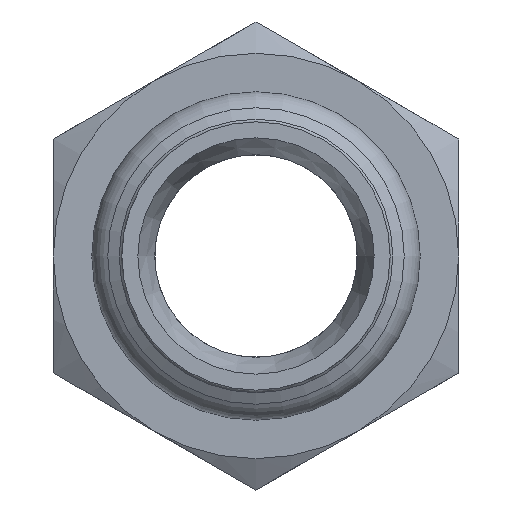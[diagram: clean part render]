
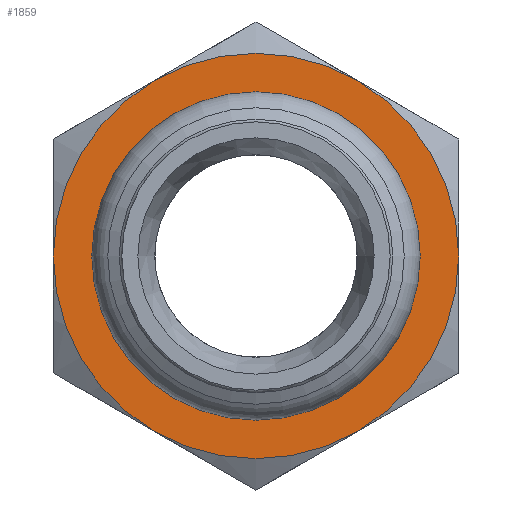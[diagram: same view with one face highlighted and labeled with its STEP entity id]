
A CAD part, left-side view. The second image highlights one B-rep face of the part: STEP entity #1859.
In plain terms, the highlighted planar face has unit normal (-1, 0, 0) as drawn and (0, 0, -1) by its records, which use the part's own axes.
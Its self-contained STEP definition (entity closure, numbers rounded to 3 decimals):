
#1319=CARTESIAN_POINT('',(16.454,9.5,0.));
#1320=VERTEX_POINT('',#1319);
#1334=CARTESIAN_POINT('',(16.454,-9.5,0.));
#1335=VERTEX_POINT('',#1334);
#1349=CARTESIAN_POINT('',(0.0,0.0,0.0));
#1350=DIRECTION('',(0.0,0.0,-1.0));
#1351=DIRECTION('',(0.0,-1.0,0.0));
#1352=AXIS2_PLACEMENT_3D('',#1349,#1350,#1351);
#1353=CIRCLE('',#1352,19.);
#1354=EDGE_CURVE('',#1320,#1335,#1353,.T.);
#1366=CARTESIAN_POINT('',(0.0,19.,0.));
#1367=VERTEX_POINT('',#1366);
#1394=CARTESIAN_POINT('',(0.0,0.0,0.0));
#1395=DIRECTION('',(0.0,0.0,-1.0));
#1396=DIRECTION('',(0.0,-1.0,0.0));
#1397=AXIS2_PLACEMENT_3D('',#1394,#1395,#1396);
#1398=CIRCLE('',#1397,19.);
#1399=EDGE_CURVE('',#1367,#1320,#1398,.T.);
#1411=CARTESIAN_POINT('',(-16.454,9.5,0.));
#1412=VERTEX_POINT('',#1411);
#1439=CARTESIAN_POINT('',(0.0,0.0,0.0));
#1440=DIRECTION('',(0.0,0.0,-1.0));
#1441=DIRECTION('',(0.0,-1.0,0.0));
#1442=AXIS2_PLACEMENT_3D('',#1439,#1440,#1441);
#1443=CIRCLE('',#1442,19.);
#1444=EDGE_CURVE('',#1412,#1367,#1443,.T.);
#1469=CARTESIAN_POINT('',(-16.454,-9.5,0.));
#1470=VERTEX_POINT('',#1469);
#1471=CARTESIAN_POINT('',(0.0,0.0,0.0));
#1472=DIRECTION('',(0.0,0.0,-1.0));
#1473=DIRECTION('',(0.0,-1.0,0.0));
#1474=AXIS2_PLACEMENT_3D('',#1471,#1472,#1473);
#1475=CIRCLE('',#1474,19.);
#1476=EDGE_CURVE('',#1470,#1412,#1475,.T.);
#1514=CARTESIAN_POINT('',(0.0,-19.0,0.0));
#1515=VERTEX_POINT('',#1514);
#1516=CARTESIAN_POINT('',(0.0,0.0,0.0));
#1517=DIRECTION('',(0.0,0.0,-1.0));
#1518=DIRECTION('',(0.0,-1.0,0.0));
#1519=AXIS2_PLACEMENT_3D('',#1516,#1517,#1518);
#1520=CIRCLE('',#1519,19.);
#1521=EDGE_CURVE('',#1515,#1470,#1520,.T.);
#1559=CARTESIAN_POINT('',(0.0,0.0,0.0));
#1560=DIRECTION('',(0.0,0.0,-1.0));
#1561=DIRECTION('',(0.0,-1.0,0.0));
#1562=AXIS2_PLACEMENT_3D('',#1559,#1560,#1561);
#1563=CIRCLE('',#1562,19.);
#1564=EDGE_CURVE('',#1335,#1515,#1563,.T.);
#1786=CARTESIAN_POINT('',(-13.0,0.0,0.0));
#1787=VERTEX_POINT('',#1786);
#1788=CARTESIAN_POINT('',(0.0,0.0,0.0));
#1789=DIRECTION('',(0.0,0.0,1.0));
#1790=DIRECTION('',(-1.0,0.0,0.0));
#1791=AXIS2_PLACEMENT_3D('',#1788,#1789,#1790);
#1792=CIRCLE('',#1791,13.0);
#1793=EDGE_CURVE('',#1787,#1787,#1792,.T.);
#1843=CARTESIAN_POINT('',(0.,0.,0.0));
#1844=DIRECTION('',(0.0,0.0,1.0));
#1845=DIRECTION('',(1.0,0.0,0.0));
#1846=AXIS2_PLACEMENT_3D('',#1843,#1844,#1845);
#1847=PLANE('',#1846);
#1848=ORIENTED_EDGE('',*,*,#1564,.T.);
#1849=ORIENTED_EDGE('',*,*,#1521,.T.);
#1850=ORIENTED_EDGE('',*,*,#1476,.T.);
#1851=ORIENTED_EDGE('',*,*,#1444,.T.);
#1852=ORIENTED_EDGE('',*,*,#1399,.T.);
#1853=ORIENTED_EDGE('',*,*,#1354,.T.);
#1854=EDGE_LOOP('',(#1848,#1849,#1850,#1851,#1852,#1853));
#1855=FACE_OUTER_BOUND('',#1854,.T.);
#1856=ORIENTED_EDGE('',*,*,#1793,.T.);
#1857=EDGE_LOOP('',(#1856));
#1858=FACE_BOUND('',#1857,.T.);
#1859=ADVANCED_FACE('',(#1855,#1858),#1847,.F.);
